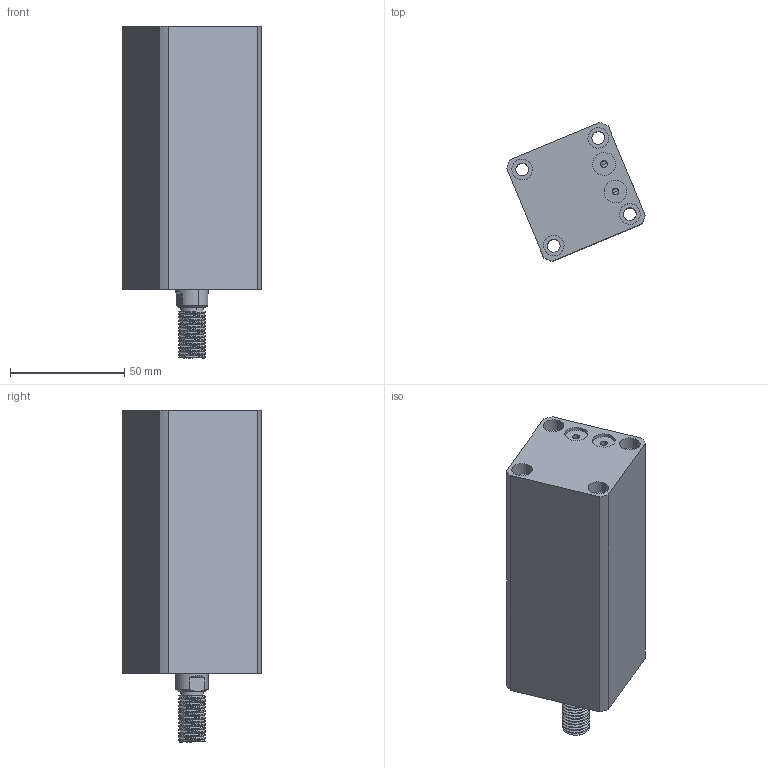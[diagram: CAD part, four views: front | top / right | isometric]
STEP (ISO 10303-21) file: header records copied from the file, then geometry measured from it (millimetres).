
FILE_DESCRIPTION (( 'STEP AP214' ), '1' );
FILE_NAME ('chtb-sdmb25x70w_asm.STEP', '2018-05-24T02:40:58', ( 'Windows' ), ( 'Microsoft' ), 'SwSTEP 2.0', 'SolidWorks 2015', '' );
FILE_SCHEMA (( 'AUTOMOTIVE_DESIGN' ));
Length unit declared in the file: millimetre
Products named in the file (4): chtb-sdmb25x70w_asm; CHTB-SDMB25X70WHSG; CHTB-SDMB25X70NBT; CHTB-25QG
Assembly tree (3 placements, depth 2):
  chtb-sdmb25x70w_asm
    CHTB-25QG
    CHTB-SDMB25X70NBT
    CHTB-SDMB25X70WHSG
Bounding box: 60.55 x 60.55 x 145 mm (x, y, z)
Volume: 227809.2 mm3; surface area: 57540.5 mm2
Topology: 3 solids, 3 shells, 176 faces, 476 edges, 323 vertices
Faces by surface type: cylinder 118, plane 37, bspline 12, cone 9
Entity records: 10721 total; most frequent: CARTESIAN_POINT 6406, ORIENTED_EDGE 944, DIRECTION 765, EDGE_CURVE 472, VERTEX_POINT 323, AXIS2_PLACEMENT_3D 310, EDGE_LOOP 215, ADVANCED_FACE 176
